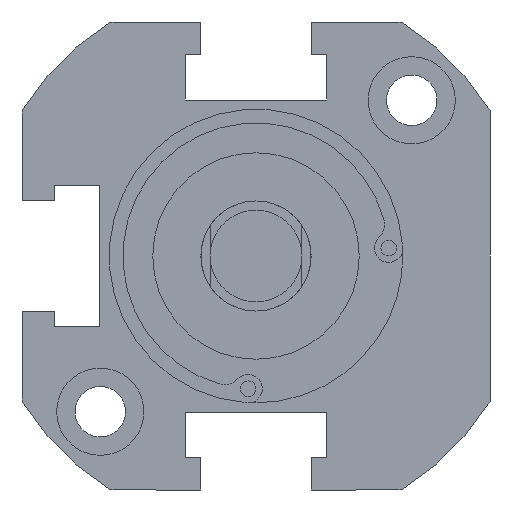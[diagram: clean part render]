
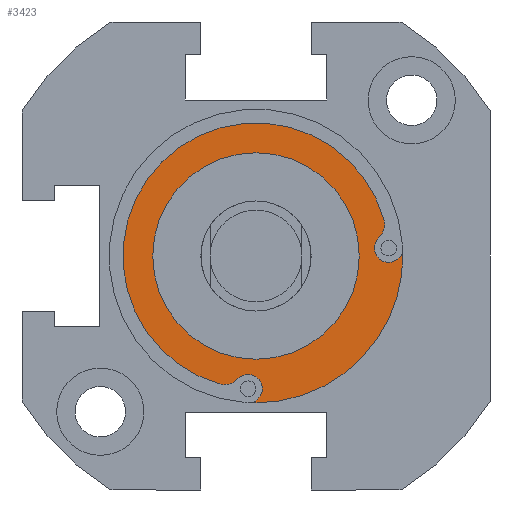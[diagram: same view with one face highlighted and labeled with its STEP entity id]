
A CAD part, front view. The second image highlights one B-rep face of the part: STEP entity #3423.
In plain terms, the highlighted planar face has unit normal (0, -1, 0).
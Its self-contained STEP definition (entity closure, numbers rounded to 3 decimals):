
#54 = VERTEX_POINT ( 'NONE', #2938 ) ;
#105 = EDGE_CURVE ( 'NONE', #1164, #1013, #3995, .T. ) ;
#157 = EDGE_CURVE ( 'NONE', #382, #2036, #1925, .T. ) ;
#212 = CARTESIAN_POINT ( 'NONE',  ( -3.433, -38., -12.019 ) ) ;
#223 = CARTESIAN_POINT ( 'NONE',  ( -1.983, -38., -13.397 ) ) ;
#224 = VERTEX_POINT ( 'NONE', #3452 ) ;
#234 = CARTESIAN_POINT ( 'NONE',  ( 0., -38., -16. ) ) ;
#298 = DIRECTION ( 'NONE',  ( 0., 0., 1. ) ) ;
#380 = CARTESIAN_POINT ( 'NONE',  ( 0., -38., 0. ) ) ;
#382 = VERTEX_POINT ( 'NONE', #3805 ) ;
#386 = DIRECTION ( 'NONE',  ( 0., 1., 0. ) ) ;
#458 = ORIENTED_EDGE ( 'NONE', *, *, #2294, .F. ) ;
#510 = DIRECTION ( 'NONE',  ( 0., -1., 0. ) ) ;
#534 = CIRCLE ( 'NONE', #2786, 1.55 ) ;
#651 = DIRECTION ( 'NONE',  ( 0., 1., 0. ) ) ;
#653 = VERTEX_POINT ( 'NONE', #223 ) ;
#668 = CARTESIAN_POINT ( 'NONE',  ( -0.859, -38., -14.464 ) ) ;
#853 = CARTESIAN_POINT ( 'NONE',  ( -3.433, -38., -12.019 ) ) ;
#882 = CIRCLE ( 'NONE', #1570, 2. ) ;
#1013 = VERTEX_POINT ( 'NONE', #2171 ) ;
#1053 = CARTESIAN_POINT ( 'NONE',  ( 13.397, -38., 1.983 ) ) ;
#1055 = AXIS2_PLACEMENT_3D ( 'NONE', #3626, #2988, #1115 ) ;
#1090 = CARTESIAN_POINT ( 'NONE',  ( 0., -38., 0. ) ) ;
#1107 = CARTESIAN_POINT ( 'NONE',  ( 0., -38., 0. ) ) ;
#1115 = DIRECTION ( 'NONE',  ( 0., 0., 1. ) ) ;
#1126 = DIRECTION ( 'NONE',  ( 0., 1., 0. ) ) ;
#1142 = EDGE_CURVE ( 'NONE', #653, #224, #2495, .T. ) ;
#1164 = VERTEX_POINT ( 'NONE', #2266 ) ;
#1264 = CARTESIAN_POINT ( 'NONE',  ( 0., -38., -11.25 ) ) ;
#1274 = DIRECTION ( 'NONE',  ( 0., 0., 1. ) ) ;
#1350 = ORIENTED_EDGE ( 'NONE', *, *, #1931, .T. ) ;
#1364 = ORIENTED_EDGE ( 'NONE', *, *, #2886, .T. ) ;
#1404 = EDGE_CURVE ( 'NONE', #54, #653, #3879, .T. ) ;
#1414 = DIRECTION ( 'NONE',  ( 0., -1., 0. ) ) ;
#1438 = CARTESIAN_POINT ( 'NONE',  ( 0., -38., 0. ) ) ;
#1446 = ORIENTED_EDGE ( 'NONE', *, *, #1404, .T. ) ;
#1513 = DIRECTION ( 'NONE',  ( 0., -1., 0. ) ) ;
#1570 = AXIS2_PLACEMENT_3D ( 'NONE', #212, #2388, #3012 ) ;
#1592 = ORIENTED_EDGE ( 'NONE', *, *, #2369, .F. ) ;
#1654 = VERTEX_POINT ( 'NONE', #2290 ) ;
#1685 = AXIS2_PLACEMENT_3D ( 'NONE', #1090, #3288, #2357 ) ;
#1698 = AXIS2_PLACEMENT_3D ( 'NONE', #1107, #1126, #3326 ) ;
#1716 = CIRCLE ( 'NONE', #2594, 1.55 ) ;
#1862 = AXIS2_PLACEMENT_3D ( 'NONE', #853, #510, #2659 ) ;
#1925 = CIRCLE ( 'NONE', #3171, 11.25 ) ;
#1928 = PLANE ( 'NONE',  #2337 ) ;
#1931 = EDGE_CURVE ( 'NONE', #1164, #54, #882, .T. ) ;
#1949 = VERTEX_POINT ( 'NONE', #234 ) ;
#2003 = FACE_OUTER_BOUND ( 'NONE', #3964, .T. ) ;
#2011 = CARTESIAN_POINT ( 'NONE',  ( 14.464, -38., -0.691 ) ) ;
#2036 = VERTEX_POINT ( 'NONE', #1264 ) ;
#2046 = DIRECTION ( 'NONE',  ( 0., 0., -1. ) ) ;
#2072 = AXIS2_PLACEMENT_3D ( 'NONE', #668, #386, #2278 ) ;
#2074 = DIRECTION ( 'NONE',  ( 0., 0., 1. ) ) ;
#2083 = DIRECTION ( 'NONE',  ( 0., 1., 0. ) ) ;
#2135 = ORIENTED_EDGE ( 'NONE', *, *, #105, .F. ) ;
#2171 = CARTESIAN_POINT ( 'NONE',  ( 13.942, -38., 3.982 ) ) ;
#2245 = EDGE_LOOP ( 'NONE', ( #1364, #2759 ) ) ;
#2266 = CARTESIAN_POINT ( 'NONE',  ( -3.982, -38., -13.942 ) ) ;
#2278 = DIRECTION ( 'NONE',  ( 0., 0., 1. ) ) ;
#2290 = CARTESIAN_POINT ( 'NONE',  ( 15.989, -38., 0.582 ) ) ;
#2294 = EDGE_CURVE ( 'NONE', #3965, #3976, #1716, .T. ) ;
#2337 = AXIS2_PLACEMENT_3D ( 'NONE', #380, #2597, #2889 ) ;
#2357 = DIRECTION ( 'NONE',  ( 0., 0., 1. ) ) ;
#2369 = EDGE_CURVE ( 'NONE', #3976, #1654, #534, .T. ) ;
#2388 = DIRECTION ( 'NONE',  ( 0., -1., 0. ) ) ;
#2495 = CIRCLE ( 'NONE', #2072, 1.55 ) ;
#2551 = ORIENTED_EDGE ( 'NONE', *, *, #3228, .F. ) ;
#2594 = AXIS2_PLACEMENT_3D ( 'NONE', #2850, #1513, #3070 ) ;
#2597 = DIRECTION ( 'NONE',  ( 0., -1., 0. ) ) ;
#2658 = EDGE_CURVE ( 'NONE', #3965, #1013, #2684, .T. ) ;
#2659 = DIRECTION ( 'NONE',  ( 0., 0., -1. ) ) ;
#2684 = CIRCLE ( 'NONE', #2932, 2. ) ;
#2718 = FACE_BOUND ( 'NONE', #2245, .T. ) ;
#2759 = ORIENTED_EDGE ( 'NONE', *, *, #157, .T. ) ;
#2773 = EDGE_CURVE ( 'NONE', #1654, #1949, #3827, .T. ) ;
#2786 = AXIS2_PLACEMENT_3D ( 'NONE', #2795, #3128, #1274 ) ;
#2795 = CARTESIAN_POINT ( 'NONE',  ( 14.464, -38., 0.859 ) ) ;
#2850 = CARTESIAN_POINT ( 'NONE',  ( 14.464, -38., 0.859 ) ) ;
#2886 = EDGE_CURVE ( 'NONE', #2036, #382, #3593, .T. ) ;
#2889 = DIRECTION ( 'NONE',  ( 0., 0., 1. ) ) ;
#2932 = AXIS2_PLACEMENT_3D ( 'NONE', #3584, #1414, #2046 ) ;
#2938 = CARTESIAN_POINT ( 'NONE',  ( -3.433, -38., -14.019 ) ) ;
#2964 = ORIENTED_EDGE ( 'NONE', *, *, #2773, .F. ) ;
#2988 = DIRECTION ( 'NONE',  ( 0., 1., 0. ) ) ;
#3012 = DIRECTION ( 'NONE',  ( 0., 0., -1. ) ) ;
#3070 = DIRECTION ( 'NONE',  ( 0., 0., 1. ) ) ;
#3128 = DIRECTION ( 'NONE',  ( 0., -1., 0. ) ) ;
#3171 = AXIS2_PLACEMENT_3D ( 'NONE', #1438, #2083, #2074 ) ;
#3228 = EDGE_CURVE ( 'NONE', #1949, #224, #3493, .T. ) ;
#3288 = DIRECTION ( 'NONE',  ( 0., 1., 0. ) ) ;
#3326 = DIRECTION ( 'NONE',  ( 0., 0., 1. ) ) ;
#3423 = ADVANCED_FACE ( 'NONE', ( #2003, #2718 ), #1928, .T. ) ;
#3452 = CARTESIAN_POINT ( 'NONE',  ( -0.582, -38., -15.989 ) ) ;
#3493 = CIRCLE ( 'NONE', #3639, 16. ) ;
#3524 = ORIENTED_EDGE ( 'NONE', *, *, #1142, .T. ) ;
#3584 = CARTESIAN_POINT ( 'NONE',  ( 12.019, -38., 3.433 ) ) ;
#3593 = CIRCLE ( 'NONE', #1055, 11.25 ) ;
#3626 = CARTESIAN_POINT ( 'NONE',  ( 0., -38., 0. ) ) ;
#3639 = AXIS2_PLACEMENT_3D ( 'NONE', #3774, #651, #298 ) ;
#3774 = CARTESIAN_POINT ( 'NONE',  ( 0., -38., 0. ) ) ;
#3805 = CARTESIAN_POINT ( 'NONE',  ( 0., -38., 11.25 ) ) ;
#3827 = CIRCLE ( 'NONE', #1685, 16. ) ;
#3879 = CIRCLE ( 'NONE', #1862, 2. ) ;
#3964 = EDGE_LOOP ( 'NONE', ( #458, #4063, #2135, #1350, #1446, #3524, #2551, #2964, #1592 ) ) ;
#3965 = VERTEX_POINT ( 'NONE', #1053 ) ;
#3976 = VERTEX_POINT ( 'NONE', #2011 ) ;
#3995 = CIRCLE ( 'NONE', #1698, 14.5 ) ;
#4063 = ORIENTED_EDGE ( 'NONE', *, *, #2658, .T. ) ;
